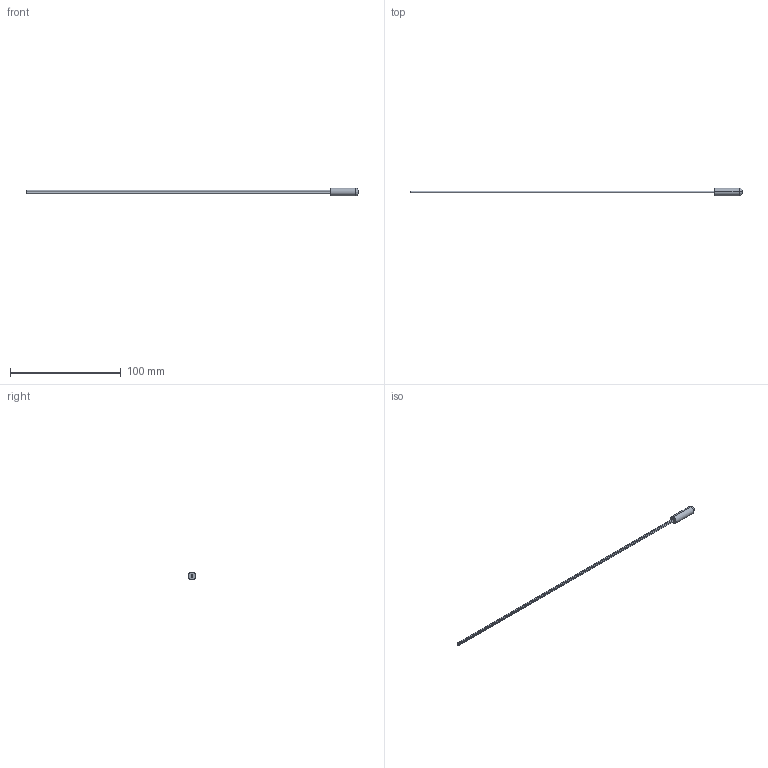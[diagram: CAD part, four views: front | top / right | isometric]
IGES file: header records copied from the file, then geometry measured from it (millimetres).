
Start section: SolidWorks IGES file using analytic representation for surfaces
Global section: file name: D:\Data\0 ASSEMBLY\641 90193 Bosch US  si 7x25 ________\SW_NTCACAPE3C90193\NTCACAPE3C90193 Vishay 3D IGES.IGS; native system: SolidWorks 2014; preprocessor: SolidWorks 2014; author: rwacheux; date: 140908.112543; units: millimetre
Bounding box: 300 x 7 x 7 mm (x, y, z)
Surface area: 4624.1 mm2 (no closed solid volume)
Topology: 0 solids, 0 shells, 23 faces, 316 edges, 316 vertices
Faces by surface type: revolution 13, bspline 10
